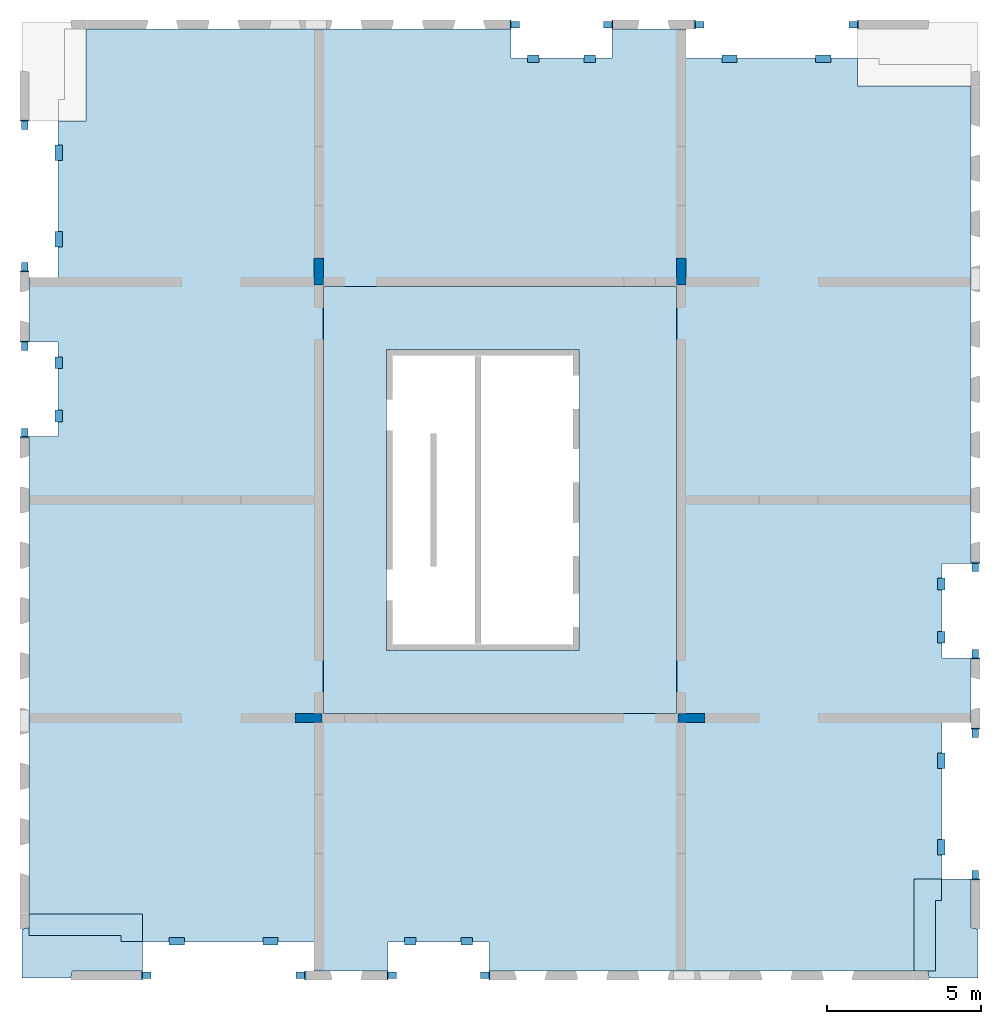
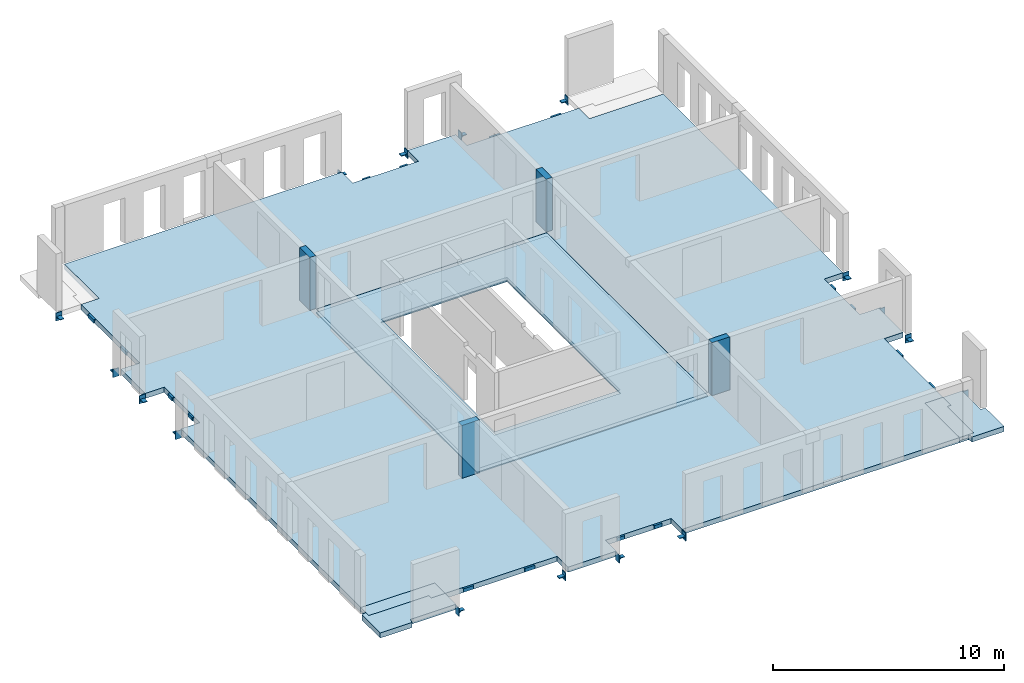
# One storey, part 1 of 5: 32 beams, 7 slabs, 4 columns, 3 openings.
"""IFC2X3 building model written with IfcOpenShell, lengths in millimetres."""

import ifcopenshell
import ifcopenshell.guid

model = None  # the IFC model being written
_history = None  # IfcOwnerHistory: only IFC2X3 demands one
_inside = {}  # id of a spatial element -> (the spatial element, [elements in it])
_under = {}  # id of a project, library or spatial element -> (it, [spatial elements below it])
_declared = {}  # id of a project -> (the project, [libraries it declares])
_typed = {}  # id of a type object -> (the type object, [elements of that type])
_made_of = {}  # id of a material, layer set ... -> (it, [elements and type objects made of it])


def new_model(schema):
    """Start an empty IFC model of exactly this schema.

    Asked for "IFC4X3", IfcOpenShell would pick the latest addendum, in which some entities
    have other attributes; the version numbers below select the first issue.
    IFC2X3 requires an IfcOwnerHistory on every rooted entity: one is made here for all.
    """
    global model, _history
    if schema == "IFC4X3":
        model = ifcopenshell.file(schema_version=(4, 3, 0, 0))
    else:
        model = ifcopenshell.file(schema=schema)
    _inside.clear()
    _under.clear()
    _declared.clear()
    _typed.clear()
    _made_of.clear()
    _history = None
    if model.schema == "IFC2X3":
        org = make("IfcOrganization", Name="unknown")
        user = make(
            "IfcPersonAndOrganization",
            ThePerson=make("IfcPerson", FamilyName="unknown"),
            TheOrganization=org,
        )
        app = make(
            "IfcApplication",
            ApplicationDeveloper=org,
            Version="unknown",
            ApplicationFullName="unknown",
            ApplicationIdentifier="unknown",
        )
        _history = make(
            "IfcOwnerHistory",
            OwningUser=user,
            OwningApplication=app,
            ChangeAction="ADDED",
            CreationDate=0,
        )
    return model


def make(cls, **values):
    """One entity of the class cls with the attributes given. An attribute that is None is left unset."""
    return model.create_entity(
        cls, **{name: value for name, value in values.items() if value is not None}
    )


def entity(cls, *values):
    """Any entity or typed value of the class cls, its attributes in the order of the schema. None: left unset."""
    e = model.create_entity(cls)
    for i, value in enumerate(values):
        if value is not None:
            e[i] = value
    return e


def rooted(cls, **values):
    """An entity with a GlobalId (a new one), such as an element, a storey or a relation."""
    return make(cls, GlobalId=ifcopenshell.guid.new(), OwnerHistory=_history, **values)


def si_unit(unit_type, name, prefix=None):
    """IfcSIUnit, for example si_unit("LENGTHUNIT", "METRE", prefix="MILLI")."""
    return make("IfcSIUnit", UnitType=unit_type, Prefix=prefix, Name=name)


def converted_unit(unit_type, name, factor, base, dimensions=None, offset=None):
    """IfcConversionBasedUnit, such as the inch: factor (a typed value) times the base unit."""
    return make(
        "IfcConversionBasedUnit"
        if offset is None
        else "IfcConversionBasedUnitWithOffset",
        ConversionOffset=offset,
        Dimensions=None
        if dimensions is None
        else entity("IfcDimensionalExponents", *dimensions),
        UnitType=unit_type,
        Name=name,
        ConversionFactor=make(
            "IfcMeasureWithUnit", ValueComponent=factor, UnitComponent=base
        ),
    )


def derived_unit(unit_type, elements):
    """IfcDerivedUnit: a product of units, each with its exponent."""
    return make(
        "IfcDerivedUnit",
        Elements=[
            make("IfcDerivedUnitElement", Unit=unit, Exponent=power)
            for unit, power in elements
        ],
        UnitType=unit_type,
    )


def assignment(units):
    """IfcUnitAssignment: the units of a project."""
    return None if units is None else make("IfcUnitAssignment", Units=units)


def point(xyz):
    """IfcCartesianPoint."""
    return None if xyz is None else make("IfcCartesianPoint", Coordinates=xyz)


def direction(xyz):
    """IfcDirection."""
    return None if xyz is None else make("IfcDirection", DirectionRatios=xyz)


def frame(location, z_axis=None, x_axis=None):
    """IfcAxis2Placement3D, a coordinate frame: its origin and axes. An axis left out is left unset."""
    return make(
        "IfcAxis2Placement3D",
        Location=point(location),
        Axis=direction(z_axis),
        RefDirection=direction(x_axis),
    )


def frame_2d(location, x_axis=None):
    """IfcAxis2Placement2D, a coordinate frame in the plane: its origin and x axis."""
    return make(
        "IfcAxis2Placement2D", Location=point(location), RefDirection=direction(x_axis)
    )


def origin():
    """The frame at (0, 0, 0) with its axes left unset."""
    return frame((0.0, 0.0, 0.0))


def origin_2d_with_axis():
    """The frame at (0, 0) in the plane with the x axis (1, 0) written out."""
    return frame_2d((0.0, 0.0), x_axis=(1.0, 0.0))


def place(relative_to, where):
    """IfcLocalPlacement: puts the frame where relative to a parent placement (None: the world)."""
    return make(
        "IfcLocalPlacement", PlacementRelTo=relative_to, RelativePlacement=where
    )


def context(
    kind, dimensions, precision=None, world=None, true_north=None, identifier=None
):
    """IfcGeometricRepresentationContext, for example the 3D "Model" context."""
    return make(
        "IfcGeometricRepresentationContext",
        ContextIdentifier=identifier,
        ContextType=kind,
        CoordinateSpaceDimension=dimensions,
        Precision=precision,
        WorldCoordinateSystem=world,
        TrueNorth=true_north,
    )


def subcontext(parent, identifier, kind, view, scale=None):
    """IfcGeometricRepresentationSubContext, for example "Body" below "Model"."""
    return make(
        "IfcGeometricRepresentationSubContext",
        ContextIdentifier=identifier,
        ContextType=kind,
        ParentContext=parent,
        TargetScale=scale,
        TargetView=view,
    )


def project(units=None, contexts=None):
    """IfcProject with its units and contexts."""
    return rooted(
        "IfcProject",
        Name="project",
        RepresentationContexts=contexts,
        UnitsInContext=assignment(units),
    )


def spatial(cls, under=None, at=None, **own):
    """A site, building, storey or space (cls), placed at a placement, below another one or the project."""
    s = rooted(cls, ObjectPlacement=at, **own)
    if under is not None:
        _under.setdefault(under.id(), (under, []))[1].append(s)
    return s


def polyline(points):
    """IfcPolyline through the points."""
    return make("IfcPolyline", Points=[point(p) for p in points])


def profile(cls, at=None, kind="AREA", **sizes):
    """A parametric profile (cls). Its sizes go by their IFC names, for example OverallWidth=200.0."""
    return make(cls, ProfileType=kind, Position=at, **sizes)


def rectangle(**sizes):
    """IfcRectangleProfileDef."""
    return profile("IfcRectangleProfileDef", **sizes)


def outline(outer, holes=None, kind="AREA"):
    """IfcArbitraryClosedProfileDef: a profile drawn as a closed curve; with holes, ...WithVoids."""
    if holes is None:
        return make("IfcArbitraryClosedProfileDef", ProfileType=kind, OuterCurve=outer)
    return make(
        "IfcArbitraryProfileDefWithVoids",
        ProfileType=kind,
        OuterCurve=outer,
        InnerCurves=holes,
    )


def extrude(swept, where, along, depth):
    """IfcExtrudedAreaSolid: the profile swept, set in the frame where, extruded along a direction by depth."""
    return make(
        "IfcExtrudedAreaSolid",
        SweptArea=swept,
        Position=where,
        ExtrudedDirection=direction(along),
        Depth=depth,
    )


def shape(context_of_items, identifier, shape_type, items):
    """IfcShapeRepresentation: the items that make up one representation, for example the "Body"."""
    return make(
        "IfcShapeRepresentation",
        ContextOfItems=context_of_items,
        RepresentationIdentifier=identifier,
        RepresentationType=shape_type,
        Items=items,
    )


def source(mapping_origin, context_of_items, identifier, shape_type, items):
    """IfcRepresentationMap: a shape defined once, which mapped items show again and again."""
    return make(
        "IfcRepresentationMap",
        MappingOrigin=mapping_origin,
        MappedRepresentation=shape(context_of_items, identifier, shape_type, items),
    )


def transform(
    local_origin,
    x_axis=None,
    y_axis=None,
    z_axis=None,
    scale=None,
    scale2=None,
    scale3=None,
    uniform=True,
):
    """IfcCartesianTransformationOperator3D, or its non-uniform kind. x_axis, y_axis, z_axis: its Axis1, 2, 3."""
    if uniform:
        return make(
            "IfcCartesianTransformationOperator3D",
            Axis1=direction(x_axis),
            Axis2=direction(y_axis),
            LocalOrigin=point(local_origin),
            Scale=scale,
            Axis3=direction(z_axis),
        )
    return make(
        "IfcCartesianTransformationOperator3DnonUniform",
        Axis1=direction(x_axis),
        Axis2=direction(y_axis),
        LocalOrigin=point(local_origin),
        Scale=scale,
        Axis3=direction(z_axis),
        Scale2=scale2,
        Scale3=scale3,
    )


def mapped(mapping_source, mapping_target):
    """IfcMappedItem: shows the shape of a source again, moved by a transform."""
    return make(
        "IfcMappedItem", MappingSource=mapping_source, MappingTarget=mapping_target
    )


def material(Name=None, Category=None):
    """IfcMaterial."""
    return make("IfcMaterial", Name=Name, Category=Category)


def layer(
    of_material, thickness, ventilated=None, Name=None, Category=None, Priority=None
):
    """IfcMaterialLayer: one layer of a wall or slab, of a material (None: an air gap)."""
    return make(
        "IfcMaterialLayer",
        Material=of_material,
        LayerThickness=thickness,
        IsVentilated=ventilated,
        Name=Name,
        Category=Category,
        Priority=Priority,
    )


def layer_set(layers, Name=None):
    """IfcMaterialLayerSet."""
    return make("IfcMaterialLayerSet", MaterialLayers=layers, LayerSetName=Name)


def layer_usage(for_layer_set, set_direction, sense, offset, extent=None):
    """IfcMaterialLayerSetUsage: how a layer set lies in its element."""
    return make(
        "IfcMaterialLayerSetUsage",
        ForLayerSet=for_layer_set,
        LayerSetDirection=set_direction,
        DirectionSense=sense,
        OffsetFromReferenceLine=offset,
        ReferenceExtent=extent,
    )


def made_of(thing, what):
    """Note that an element or type object is made of a material, layer set ...; save() writes the relation."""
    if what is not None:
        _made_of.setdefault(what.id(), (what, []))[1].append(thing)
    return thing


def type_object(cls, material=None, **own):
    """A type object (cls), such as IfcWallType, which elements share."""
    return made_of(rooted(cls, **own), material)


def type_shapes(of_type, sources):
    """Give a type object the sources (RepresentationMaps) that its elements show as mapped items."""
    of_type.RepresentationMaps = sources


def element(
    cls,
    number,
    at=None,
    inside=None,
    cuts=None,
    type_object=None,
    material=None,
    context=None,
    identifier="Body",
    shape_type=None,
    held_by="IfcProductDefinitionShape",
    body=None,
    shapes=None,
    **own,
):
    """One element of the class cls, such as IfcWall. Its Tag is "e" and its number.

    at: its placement. inside: the storey or other place that contains it. cuts: it is an
    opening in that element (IfcRelVoidsElement). A single representation is given by context,
    identifier, shape_type and body (its items); several are given by shapes. held_by: the class
    of the entity that holds the representations. save() writes the other relations.
    """
    e = rooted(cls, Tag="e%d" % number, ObjectPlacement=at, **own)
    if body is not None:
        shapes = [shape(context, identifier, shape_type, body)]
    if shapes is not None:
        e.Representation = make(held_by, Representations=shapes)
    if inside is not None:
        _inside.setdefault(inside.id(), (inside, []))[1].append(e)
    if cuts is not None:
        rooted(
            "IfcRelVoidsElement", RelatingBuildingElement=cuts, RelatedOpeningElement=e
        )
    if type_object is not None:
        _typed.setdefault(type_object.id(), (type_object, []))[1].append(e)
    return made_of(e, material)


def aggregate(whole, parts):
    """IfcRelAggregates: a whole, such as a stair, and the parts it consists of."""
    return rooted("IfcRelAggregates", RelatingObject=whole, RelatedObjects=parts)


def save(model, path):
    """Write the relations noted so far, then the file.

    IfcRelAggregates (storeys below a building ...), IfcRelContainedInSpatialStructure (elements
    in a storey), IfcRelDefinesByType, IfcRelAssociatesMaterial and IfcRelDeclares: one each for
    every whole, place, type object, material and project.
    """
    for whole, parts in _under.values():
        aggregate(whole, parts)
    for where, things in _inside.values():
        rooted(
            "IfcRelContainedInSpatialStructure",
            RelatedElements=things,
            RelatingStructure=where,
        )
    for kind, things in _typed.values():
        rooted("IfcRelDefinesByType", RelatedObjects=things, RelatingType=kind)
    for what, things in _made_of.values():
        rooted("IfcRelAssociatesMaterial", RelatedObjects=things, RelatingMaterial=what)
    for by, libraries in _declared.values():
        rooted("IfcRelDeclares", RelatingContext=by, RelatedDefinitions=libraries)
    model.write(path)


model = new_model("IFC2X3")

# Units and contexts
model_context = context("Model", 3, precision=0.01, world=origin(), true_north=direction((6.12303176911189e-17, 1.0)))
body_context = subcontext(model_context, "Body", "Model", "MODEL_VIEW")
ifc_project = project(units=[si_unit("LENGTHUNIT", "METRE", prefix="MILLI"), si_unit("AREAUNIT", "SQUARE_METRE"), si_unit("VOLUMEUNIT", "CUBIC_METRE"), converted_unit("PLANEANGLEUNIT", "DEGREE", entity("IfcRatioMeasure", 0.0174532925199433), si_unit("PLANEANGLEUNIT", "RADIAN"), dimensions=[0, 0, 0, 0, 0, 0, 0]), si_unit("MASSUNIT", "GRAM", prefix="KILO"), derived_unit("MASSDENSITYUNIT", [(si_unit("MASSUNIT", "GRAM", prefix="KILO"), 1), (si_unit("LENGTHUNIT", "METRE"), -3)]), si_unit("TIMEUNIT", "SECOND"), si_unit("FREQUENCYUNIT", "HERTZ"), si_unit("THERMODYNAMICTEMPERATUREUNIT", "DEGREE_CELSIUS"), derived_unit("THERMALTRANSMITTANCEUNIT", [(si_unit("MASSUNIT", "GRAM", prefix="KILO"), 1), (si_unit("THERMODYNAMICTEMPERATUREUNIT", "KELVIN"), -1), (si_unit("TIMEUNIT", "SECOND"), -3)]), derived_unit("VOLUMETRICFLOWRATEUNIT", [(si_unit("LENGTHUNIT", "METRE"), 3), (si_unit("TIMEUNIT", "SECOND"), -1)]), si_unit("ELECTRICCURRENTUNIT", "AMPERE"), si_unit("ELECTRICVOLTAGEUNIT", "VOLT"), si_unit("POWERUNIT", "WATT"), si_unit("FORCEUNIT", "NEWTON", prefix="KILO"), si_unit("ILLUMINANCEUNIT", "LUX"), si_unit("LUMINOUSFLUXUNIT", "LUMEN"), si_unit("LUMINOUSINTENSITYUNIT", "CANDELA"), derived_unit("USERDEFINED", [(si_unit("MASSUNIT", "GRAM", prefix="KILO"), -1), (si_unit("LENGTHUNIT", "METRE"), -2), (si_unit("TIMEUNIT", "SECOND"), 3), (si_unit("LUMINOUSFLUXUNIT", "LUMEN"), 1)]), derived_unit("LINEARVELOCITYUNIT", [(si_unit("LENGTHUNIT", "METRE"), 1), (si_unit("TIMEUNIT", "SECOND"), -1)]), si_unit("PRESSUREUNIT", "PASCAL"), derived_unit("USERDEFINED", [(si_unit("LENGTHUNIT", "METRE"), -2), (si_unit("MASSUNIT", "GRAM", prefix="KILO"), 1), (si_unit("TIMEUNIT", "SECOND"), -2)])], contexts=[model_context])

# Site, building, storey
site_placement = place(None, origin())
site = spatial("IfcSite", under=ifc_project, at=site_placement, Name="Default", CompositionType="ELEMENT")
building_placement = place(site_placement, origin())
building = spatial("IfcBuilding", under=site, at=building_placement, Name="niet gebruiken", CompositionType="ELEMENT")
storey_placement = place(building_placement, frame((0.0, 0.0, 143460.0)))
storey = spatial("IfcBuildingStorey", under=building, at=storey_placement, Name="46 zesenveertigste verdieping", CompositionType="ELEMENT", Elevation=143460.0)

# Columns
ifc_material_1 = material(Name="NLRS_f2_beton ihwg")
column_type_1 = type_object("IfcColumnType", Name="300x880", PredefinedType="COLUMN", material=ifc_material_1)
shared_shape_1 = source(origin(), body_context, "Body", "SweptSolid", [
    extrude(rectangle(XDim=879.999999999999, YDim=300.000000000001, at=origin_2d_with_axis()), frame((135850.0, 24940.0, 143370.0), z_axis=(0.0, 0.0, 1.0), x_axis=(0.0, -1.0, 0.0)), (0.0, 0.0, 1.0), 2789.99999999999),
])
type_shapes(column_type_1, [shared_shape_1])
column_1_placement = place(storey_placement, frame((0.0, 0.0, -143460.0)))
element("IfcColumn", 1, at=column_1_placement, inside=storey, type_object=column_type_1, material=ifc_material_1, Name="NLRS_28.11_SCO_TLB_beton kolom ihwg_gen:300x880", ObjectType="300x880", context=body_context, shape_type="MappedRepresentation", body=[
    mapped(shared_shape_1, transform((0.0, 0.0, 0.0), scale=1.0)),
])
column_type_2 = type_object("IfcColumnType", Name="300x880", PredefinedType="COLUMN", material=ifc_material_1)
shared_shape_2 = source(origin(), body_context, "Body", "SweptSolid", [
    extrude(rectangle(XDim=879.999999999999, YDim=300.000000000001, at=origin_2d_with_axis()), frame((147650.0, 24940.0, 143370.0), z_axis=(0.0, 0.0, 1.0), x_axis=(0.0, -1.0, 0.0)), (0.0, 0.0, 1.0), 2789.99999999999),
])
type_shapes(column_type_2, [shared_shape_2])
column_2_placement = place(storey_placement, frame((0.0, 0.0, -143460.0)))
element("IfcColumn", 2, at=column_2_placement, inside=storey, type_object=column_type_2, material=ifc_material_1, Name="NLRS_28.11_SCO_TLB_beton kolom ihwg_gen:300x880", ObjectType="300x880", context=body_context, shape_type="MappedRepresentation", body=[
    mapped(shared_shape_2, transform((0.0, 0.0, 0.0), scale=1.0)),
])
column_type_3 = type_object("IfcColumnType", Name="300x880", PredefinedType="COLUMN", material=ifc_material_1)
shared_shape_3 = source(origin(), body_context, "Body", "SweptSolid", [
    extrude(rectangle(XDim=300.000000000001, YDim=880.000000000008, at=origin_2d_with_axis()), frame((135510.003540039, 10400.0, 143370.0), z_axis=(0.0, 0.0, 1.0), x_axis=(0.0, -1.0, 0.0)), (0.0, 0.0, 1.0), 2789.99999999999),
])
type_shapes(column_type_3, [shared_shape_3])
column_3_placement = place(storey_placement, frame((0.0, 0.0, -143460.0)))
element("IfcColumn", 3, at=column_3_placement, inside=storey, type_object=column_type_3, material=ifc_material_1, Name="NLRS_28.11_SCO_TLB_beton kolom ihwg_gen:300x880", ObjectType="300x880", context=body_context, shape_type="MappedRepresentation", body=[
    mapped(shared_shape_3, transform((0.0, 0.0, 0.0), scale=1.0)),
])
column_type_4 = type_object("IfcColumnType", Name="300x880", PredefinedType="COLUMN", material=ifc_material_1)
shared_shape_4 = source(origin(), body_context, "Body", "SweptSolid", [
    extrude(rectangle(XDim=300.000000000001, YDim=880.000000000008, at=origin_2d_with_axis()), frame((147990.0, 10400.0, 143370.0), z_axis=(0.0, 0.0, 1.0), x_axis=(0.0, -1.0, 0.0)), (0.0, 0.0, 1.0), 2789.99999999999),
])
type_shapes(column_type_4, [shared_shape_4])
column_4_placement = place(storey_placement, frame((0.0, 0.0, -143460.0)))
element("IfcColumn", 4, at=column_4_placement, inside=storey, type_object=column_type_4, material=ifc_material_1, Name="NLRS_28.11_SCO_TLB_beton kolom ihwg_gen:300x880", ObjectType="300x880", context=body_context, shape_type="MappedRepresentation", body=[
    mapped(shared_shape_4, transform((0.0, 0.0, 0.0), scale=1.0)),
])

# Beams
ifc_material_2 = material(Name="NLRS_h2_staal")
beam_type_1 = type_object("IfcBeamType", Name="NLRS_28.11_SF_WPB_stalen schoen 4_gen", PredefinedType="BEAM", material=ifc_material_2)
shared_shape_5 = source(origin(), body_context, "Body", "SweptSolid", [
    extrude(outline(polyline([(-69.4999999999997, -23.0), (8.49999999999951, -23.0), (30.5, -1.0), (30.5000000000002, 47.0), (-69.4999999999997, -23.0)])), frame((-105.0, -109.499999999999, -58.0), z_axis=(1.0, 0.0, 0.0), x_axis=(0.0, -1.0, 0.0)), (0.0, 0.0, 1.0), 35.0),
    extrude(outline(polyline([(-69.4999999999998, -23.0), (8.49999999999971, -23.0), (30.5, -1.0), (30.5000000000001, 47.0), (-69.4999999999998, -23.0)])), frame((70.0, -109.499999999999, -58.0), z_axis=(1.0, 0.0, 0.0), x_axis=(0.0, -1.0, 0.0)), (0.0, 0.0, 1.0), 35.0),
    extrude(rectangle(XDim=300.0, YDim=34.9999999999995, at=origin_2d_with_axis()), frame((0.0, -157.5, -230.0), z_axis=(0.0, 0.0, 1.0), x_axis=(-1.0, 0.0, 0.0)), (0.0, 0.0, 1.0), 420.0),
    extrude(rectangle(XDim=210.000000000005, YDim=274.999999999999, at=origin_2d_with_axis()), frame((0.0, -2.4999999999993, -35.0), z_axis=(0.0, 0.0, 1.0), x_axis=(-1.0, 0.0, 0.0)), (0.0, 0.0, 1.0), 35.0),
])
type_shapes(beam_type_1, [shared_shape_5])
beam_1_placement = place(storey_placement, frame((157230.0, 12500.0, -310.0)))
element("IfcBeam", 5, at=beam_1_placement, inside=storey, type_object=beam_type_1, material=ifc_material_2, Name="NLRS_28.11_SF_WPB_stalen schoen 4_gen:NLRS_28.11_SF_WPB_stalen schoen 4_gen", ObjectType="NLRS_28.11_SF_WPB_stalen schoen 4_gen", context=body_context, shape_type="MappedRepresentation", body=[
    mapped(shared_shape_5, transform((0.0, 0.0, 0.0), scale=1.0)),
])
for number, where, z_axis, x_axis, name in (
    (6, (157230.0, 15300.0, -310.0), (0.0, 0.0, 1.0), (-1.0, 0.0, 0.0), "NLRS_28.11_SF_WPB_stalen schoen 4_gen:NLRS_28.11_SF_WPB_stalen schoen 4_gen"),
    (7, (126270.0, 22500.0, -310.0), (0.0, 0.0, 1.0), (-1.0, 0.0, 0.0), "NLRS_28.11_SF_WPB_stalen schoen 4_gen:NLRS_28.11_SF_WPB_stalen schoen 4_gen"),
):
    element("IfcBeam", number, at=place(storey_placement, frame(where, z_axis=z_axis, x_axis=x_axis)), inside=storey, type_object=beam_type_1, material=ifc_material_2, Name=name, ObjectType="NLRS_28.11_SF_WPB_stalen schoen 4_gen", context=body_context, shape_type="MappedRepresentation", body=[
        mapped(shared_shape_5, transform((0.0, 0.0, 0.0), scale=1.0)),
    ])
beam_2_placement = place(storey_placement, frame((126270.0, 19700.0, -310.0)))
element("IfcBeam", 8, at=beam_2_placement, inside=storey, type_object=beam_type_1, material=ifc_material_2, Name="NLRS_28.11_SF_WPB_stalen schoen 4_gen:NLRS_28.11_SF_WPB_stalen schoen 4_gen", ObjectType="NLRS_28.11_SF_WPB_stalen schoen 4_gen", context=body_context, shape_type="MappedRepresentation", body=[
    mapped(shared_shape_5, transform((0.0, 0.0, 0.0), scale=1.0)),
])
for number, where, z_axis, x_axis, name in (
    (9, (138250.0, 2020.0, -310.0), (0.0, 0.0, 1.0), (0.0, -1.0, 0.0), "NLRS_28.11_SF_WPB_stalen schoen 4_gen:NLRS_28.11_SF_WPB_stalen schoen 4_gen"),
    (10, (141250.0, 2020.0, -310.0), (0.0, 0.0, 1.0), (0.0, 1.0, 0.0), "NLRS_28.11_SF_WPB_stalen schoen 4_gen:NLRS_28.11_SF_WPB_stalen schoen 4_gen"),
    (11, (145250.0, 32980.0, -310.0), (0.0, 0.0, 1.0), (0.0, 1.0, 0.0), "NLRS_28.11_SF_WPB_stalen schoen 4_gen:NLRS_28.11_SF_WPB_stalen schoen 4_gen"),
    (12, (142250.0, 32980.0, -310.0), (0.0, 0.0, 1.0), (0.0, -1.0, 0.0), "NLRS_28.11_SF_WPB_stalen schoen 4_gen:NLRS_28.11_SF_WPB_stalen schoen 4_gen"),
):
    element("IfcBeam", number, at=place(storey_placement, frame(where, z_axis=z_axis, x_axis=x_axis)), inside=storey, type_object=beam_type_1, material=ifc_material_2, Name=name, ObjectType="NLRS_28.11_SF_WPB_stalen schoen 4_gen", context=body_context, shape_type="MappedRepresentation", body=[
        mapped(shared_shape_5, transform((0.0, 0.0, 0.0), scale=1.0)),
    ])
beam_type_2 = type_object("IfcBeamType", Name="NLRS_28.11_SF_WPB_stalen schoen 3_gen", PredefinedType="BEAM", material=ifc_material_2)
shared_shape_6 = source(origin(), body_context, "Body", "SweptSolid", [
    extrude(outline(polyline([(-69.4999999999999, -23.0), (8.49999999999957, -23.0), (30.5000000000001, -1.0), (30.5000000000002, 47.0), (-69.4999999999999, -23.0)])), frame((-105.0, -109.499999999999, -63.0), z_axis=(1.0, 0.0, 0.0), x_axis=(0.0, -1.0, 0.0)), (0.0, 0.0, 1.0), 40.0),
    extrude(outline(polyline([(-69.4999999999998, -23.0), (8.49999999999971, -23.0), (30.5, -1.0), (30.5000000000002, 47.0), (-69.4999999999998, -23.0)])), frame((65.0, -109.499999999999, -63.0), z_axis=(1.0, 0.0, 0.0), x_axis=(0.0, -1.0, 0.0)), (0.0, 0.0, 1.0), 40.0),
    extrude(rectangle(XDim=300.0, YDim=39.9999999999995, at=origin_2d_with_axis()), frame((0.0, -160.0, -230.0), z_axis=(0.0, 0.0, 1.0), x_axis=(-1.0, 0.0, 0.0)), (0.0, 0.0, 1.0), 420.0),
    extrude(rectangle(XDim=210.000000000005, YDim=274.999999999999, at=origin_2d_with_axis()), frame((0.0, -2.49999999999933, -40.0), z_axis=(0.0, 0.0, 1.0), x_axis=(-1.0, 0.0, 0.0)), (0.0, 0.0, 1.0), 39.9999999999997),
])
type_shapes(beam_type_2, [shared_shape_6])
beam_3_placement = place(storey_placement, frame((157230.0, 9900.0, -310.0), z_axis=(0.0, 0.0, 1.0), x_axis=(-1.0, 0.0, 0.0)))
element("IfcBeam", 13, at=beam_3_placement, inside=storey, type_object=beam_type_2, material=ifc_material_2, Name="NLRS_28.11_SF_WPB_stalen schoen 3_gen:NLRS_28.11_SF_WPB_stalen schoen 3_gen", ObjectType="NLRS_28.11_SF_WPB_stalen schoen 3_gen", context=body_context, shape_type="MappedRepresentation", body=[
    mapped(shared_shape_6, transform((0.0, 0.0, 0.0), scale=1.0)),
])
for number, where, name in (
    (14, (157230.0, 5300.0, -310.0), "NLRS_28.11_SF_WPB_stalen schoen 3_gen:NLRS_28.11_SF_WPB_stalen schoen 3_gen"),
    (15, (126270.0, 25100.0, -310.0), "NLRS_28.11_SF_WPB_stalen schoen 3_gen:NLRS_28.11_SF_WPB_stalen schoen 3_gen"),
):
    element("IfcBeam", number, at=place(storey_placement, frame(where)), inside=storey, type_object=beam_type_2, material=ifc_material_2, Name=name, ObjectType="NLRS_28.11_SF_WPB_stalen schoen 3_gen", context=body_context, shape_type="MappedRepresentation", body=[
        mapped(shared_shape_6, transform((0.0, 0.0, 0.0), scale=1.0)),
    ])
for number, where, z_axis, x_axis, name in (
    (16, (126270.0, 29700.0, -310.0), (0.0, 0.0, 1.0), (-1.0, 0.0, 0.0), "NLRS_28.11_SF_WPB_stalen schoen 3_gen:NLRS_28.11_SF_WPB_stalen schoen 3_gen"),
    (17, (135250.0, 2020.0, -310.0), (0.0, 0.0, 1.0), (0.0, 1.0, 0.0), "NLRS_28.11_SF_WPB_stalen schoen 3_gen:NLRS_28.11_SF_WPB_stalen schoen 3_gen"),
    (18, (130250.0, 2020.0, -310.0), (0.0, 0.0, 1.0), (0.0, -1.0, 0.0), "NLRS_28.11_SF_WPB_stalen schoen 3_gen:NLRS_28.11_SF_WPB_stalen schoen 3_gen"),
    (19, (148250.0, 32980.0, -310.0), (0.0, 0.0, 1.0), (0.0, -1.0, 0.0), "NLRS_28.11_SF_WPB_stalen schoen 3_gen:NLRS_28.11_SF_WPB_stalen schoen 3_gen"),
    (20, (153250.0, 32980.0, -310.0), (0.0, 0.0, 1.0), (0.0, 1.0, 0.0), "NLRS_28.11_SF_WPB_stalen schoen 3_gen:NLRS_28.11_SF_WPB_stalen schoen 3_gen"),
):
    element("IfcBeam", number, at=place(storey_placement, frame(where, z_axis=z_axis, x_axis=x_axis)), inside=storey, type_object=beam_type_2, material=ifc_material_2, Name=name, ObjectType="NLRS_28.11_SF_WPB_stalen schoen 3_gen", context=body_context, shape_type="MappedRepresentation", body=[
        mapped(shared_shape_6, transform((0.0, 0.0, 0.0), scale=1.0)),
    ])
beam_type_3 = type_object("IfcBeamType", Name="NLRS_28.11_SF_WPB_stalen handje 7 lang 375_gen:NLRS_28.11_SF_WPB_stalen handje 7_gen", PredefinedType="BEAM")
beam_4_placement = place(storey_placement, frame((156235.125015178, 9255.24886461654, -93.0), z_axis=(0.0, 0.0, 1.0), x_axis=(0.0, -1.0, 0.0)))
element("IfcBeam", 21, at=beam_4_placement, inside=storey, type_object=beam_type_3, material=ifc_material_2, Name="NLRS_28.11_SF_WPB_stalen handje 7 lang 375_gen:NLRS_28.11_SF_WPB_stalen handje 7_gen", ObjectType="NLRS_28.11_SF_WPB_stalen handje 7 lang 375_gen:NLRS_28.11_SF_WPB_stalen handje 7_gen", context=body_context, shape_type="SweptSolid", body=[
    extrude(outline(polyline([(-70.6666666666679, -153.333333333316), (-40.6666666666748, -153.333333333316), (-40.6666666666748, 61.66666666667), (111.333333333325, 61.66666666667), (111.333333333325, 91.6666666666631), (-70.6666666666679, 91.6666666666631), (-70.6666666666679, -153.333333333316)])), frame((0.0, -91.6666666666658, -70.6666666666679), z_axis=(1.0, 0.0, 0.0), x_axis=(0.0, 0.0, -1.0)), (0.0, 0.0, 1.0), 500.000000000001),
])
beam_5_placement = place(storey_placement, frame((156235.125015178, 6445.2458243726, -93.0), z_axis=(0.0, 0.0, 1.0), x_axis=(0.0, -1.0, 0.0)))
element("IfcBeam", 22, at=beam_5_placement, inside=storey, type_object=beam_type_3, material=ifc_material_2, Name="NLRS_28.11_SF_WPB_stalen handje 7 lang 375_gen:NLRS_28.11_SF_WPB_stalen handje 7_gen", ObjectType="NLRS_28.11_SF_WPB_stalen handje 7 lang 375_gen:NLRS_28.11_SF_WPB_stalen handje 7_gen", context=body_context, shape_type="SweptSolid", body=[
    extrude(outline(polyline([(-70.6666666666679, -153.333333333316), (-40.6666666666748, -153.333333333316), (-40.6666666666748, 61.66666666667), (111.333333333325, 61.66666666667), (111.333333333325, 91.6666666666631), (-70.6666666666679, 91.6666666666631), (-70.6666666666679, -153.333333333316)])), frame((0.0, -91.6666666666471, -70.6666666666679), z_axis=(1.0, 0.0, 0.0), x_axis=(0.0, 0.0, -1.0)), (0.0, 0.0, 1.0), 500.000000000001),
])
beam_6_placement = place(storey_placement, frame((127264.874984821, 25744.7511353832, -93.0), z_axis=(0.0, 0.0, 1.0), x_axis=(0.0, 1.0, 0.0)))
element("IfcBeam", 23, at=beam_6_placement, inside=storey, type_object=beam_type_3, material=ifc_material_2, Name="NLRS_28.11_SF_WPB_stalen handje 7 lang 375_gen:NLRS_28.11_SF_WPB_stalen handje 7_gen", ObjectType="NLRS_28.11_SF_WPB_stalen handje 7 lang 375_gen:NLRS_28.11_SF_WPB_stalen handje 7_gen", context=body_context, shape_type="SweptSolid", body=[
    extrude(outline(polyline([(-70.6666666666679, -153.333333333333), (-40.6666666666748, -153.333333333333), (-40.6666666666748, 61.66666666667), (111.333333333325, 61.6666666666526), (111.333333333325, 91.6666666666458), (-70.6666666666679, 91.6666666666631), (-70.6666666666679, -153.333333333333)])), frame((0.0, -91.6666666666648, -70.6666666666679), z_axis=(1.0, 0.0, 0.0), x_axis=(0.0, 0.0, -1.0)), (0.0, 0.0, 1.0), 500.000000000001),
])
beam_7_placement = place(storey_placement, frame((127264.874984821, 28554.7541756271, -93.0), z_axis=(0.0, 0.0, 1.0), x_axis=(0.0, 1.0, 0.0)))
element("IfcBeam", 24, at=beam_7_placement, inside=storey, type_object=beam_type_3, material=ifc_material_2, Name="NLRS_28.11_SF_WPB_stalen handje 7 lang 375_gen:NLRS_28.11_SF_WPB_stalen handje 7_gen", ObjectType="NLRS_28.11_SF_WPB_stalen handje 7 lang 375_gen:NLRS_28.11_SF_WPB_stalen handje 7_gen", context=body_context, shape_type="SweptSolid", body=[
    extrude(outline(polyline([(-70.6666666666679, -153.333333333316), (-40.6666666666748, -153.333333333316), (-40.6666666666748, 61.6666666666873), (111.333333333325, 61.66666666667), (111.333333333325, 91.6666666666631), (-70.6666666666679, 91.6666666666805), (-70.6666666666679, -153.333333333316)])), frame((0.0, -91.66666666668, -70.6666666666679), z_axis=(1.0, 0.0, 0.0), x_axis=(0.0, 0.0, -1.0)), (0.0, 0.0, 1.0), 500.000000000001),
])
for number, where, z_axis, x_axis, name in (
    (25, (140862.631597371, 3015.23611279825, -93.0), (0.0, 0.0, 1.0), (-1.0, 0.0, 0.0), "NLRS_28.11_SF_WPB_stalen handje 7 lang 375_gen:NLRS_28.11_SF_WPB_stalen handje 7_gen"),
    (26, (139012.628555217, 3015.2361127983, -93.0), (0.0, 0.0, 1.0), (-1.0, 0.0, 0.0), "NLRS_28.11_SF_WPB_stalen handje 7 lang 375_gen:NLRS_28.11_SF_WPB_stalen handje 7_gen"),
):
    element("IfcBeam", number, at=place(storey_placement, frame(where, z_axis=z_axis, x_axis=x_axis)), inside=storey, type_object=beam_type_3, material=ifc_material_2, Name=name, ObjectType="NLRS_28.11_SF_WPB_stalen handje 7 lang 375_gen:NLRS_28.11_SF_WPB_stalen handje 7_gen", context=body_context, shape_type="SweptSolid", body=[
        extrude(outline(polyline([(-70.666666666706, -153.333333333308), (-40.6666666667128, -153.333333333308), (-40.6666666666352, 61.6666666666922), (111.333333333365, 61.6666666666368), (111.333333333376, 91.6666666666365), (-70.6666666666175, 91.6666666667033), (-70.666666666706, -153.333333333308)])), frame((0.0, -91.6666666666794, -70.6666666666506), z_axis=(1.0, 0.0, 0.0), x_axis=(0.0, 0.0, -1.0)), (0.0, 0.0, 1.0), 375.000000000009),
    ])
for number, where, z_axis, x_axis, name in (
    (27, (134525.131597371, 3015.23611279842, -93.0), (0.0, 0.0, 1.0), (-1.0, 0.0, 0.0), "NLRS_28.11_SF_WPB_stalen handje 7 lang 375_gen:NLRS_28.11_SF_WPB_stalen handje 7_gen"),
    (28, (131475.128555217, 3015.23611279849, -93.0), (0.0, 0.0, 1.0), (-1.0, 0.0, 0.0), "NLRS_28.11_SF_WPB_stalen handje 7 lang 375_gen:NLRS_28.11_SF_WPB_stalen handje 7_gen"),
):
    element("IfcBeam", number, at=place(storey_placement, frame(where, z_axis=z_axis, x_axis=x_axis)), inside=storey, type_object=beam_type_3, material=ifc_material_2, Name=name, ObjectType="NLRS_28.11_SF_WPB_stalen handje 7 lang 375_gen:NLRS_28.11_SF_WPB_stalen handje 7_gen", context=body_context, shape_type="SweptSolid", body=[
        extrude(outline(polyline([(-70.6666666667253, -153.333333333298), (-40.6666666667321, -153.333333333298), (-40.6666666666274, 61.6666666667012), (111.333333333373, 61.6666666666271), (111.333333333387, 91.6666666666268), (-70.6666666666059, 91.666666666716), (-70.6666666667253, -153.333333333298)])), frame((0.0, -91.6666666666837, -70.6666666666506), z_axis=(1.0, 0.0, 0.0), x_axis=(0.0, 0.0, -1.0)), (0.0, 0.0, 1.0), 500.000000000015),
    ])
for number, where, name in (
    (29, (142637.368402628, 31984.7638872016, -93.0), "NLRS_28.11_SF_WPB_stalen handje 7 lang 375_gen:NLRS_28.11_SF_WPB_stalen handje 7_gen"),
    (30, (144487.371444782, 31984.7638872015, -93.0), "NLRS_28.11_SF_WPB_stalen handje 7 lang 375_gen:NLRS_28.11_SF_WPB_stalen handje 7_gen"),
):
    element("IfcBeam", number, at=place(storey_placement, frame(where)), inside=storey, type_object=beam_type_3, material=ifc_material_2, Name=name, ObjectType="NLRS_28.11_SF_WPB_stalen handje 7 lang 375_gen:NLRS_28.11_SF_WPB_stalen handje 7_gen", context=body_context, shape_type="SweptSolid", body=[
        extrude(outline(polyline([(-70.6666666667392, -153.333333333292), (-40.666666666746, -153.333333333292), (-40.6666666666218, 61.6666666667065), (111.333333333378, 61.6666666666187), (111.333333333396, 91.6666666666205), (-70.6666666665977, 91.6666666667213), (-70.6666666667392, -153.333333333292)])), frame((0.0, -91.6666666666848, -70.6666666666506), z_axis=(1.0, 0.0, 0.0), x_axis=(0.0, 0.0, -1.0)), (0.0, 0.0, 1.0), 375.000000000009),
    ])
for number, where, name in (
    (31, (148974.868402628, 31984.7638872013, -93.0), "NLRS_28.11_SF_WPB_stalen handje 7 lang 375_gen:NLRS_28.11_SF_WPB_stalen handje 7_gen"),
    (32, (152024.871444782, 31984.7638872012, -93.0), "NLRS_28.11_SF_WPB_stalen handje 7 lang 375_gen:NLRS_28.11_SF_WPB_stalen handje 7_gen"),
):
    element("IfcBeam", number, at=place(storey_placement, frame(where)), inside=storey, type_object=beam_type_3, material=ifc_material_2, Name=name, ObjectType="NLRS_28.11_SF_WPB_stalen handje 7 lang 375_gen:NLRS_28.11_SF_WPB_stalen handje 7_gen", context=body_context, shape_type="SweptSolid", body=[
        extrude(outline(polyline([(-70.6666666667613, -153.333333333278), (-40.6666666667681, -153.333333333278), (-40.6666666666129, 61.6666666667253), (111.333333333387, 61.6666666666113), (111.333333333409, 91.6666666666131), (-70.6666666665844, 91.6666666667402), (-70.6666666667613, -153.333333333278)])), frame((0.0, -91.6666666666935, -70.6666666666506), z_axis=(1.0, 0.0, 0.0), x_axis=(0.0, 0.0, -1.0)), (0.0, 0.0, 1.0), 500.000000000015),
    ])
beam_8_placement = place(storey_placement, frame((156235.0, 14952.5097115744, -93.0), z_axis=(0.0, 0.0, 1.0), x_axis=(0.0, -1.0, 0.0)))
element("IfcBeam", 33, at=beam_8_placement, inside=storey, type_object=beam_type_3, material=ifc_material_2, Name="NLRS_28.11_SF_WPB_stalen handje 7 lang 375_gen:NLRS_28.11_SF_WPB_stalen handje 7_gen", ObjectType="NLRS_28.11_SF_WPB_stalen handje 7 lang 375_gen:NLRS_28.11_SF_WPB_stalen handje 7_gen", context=body_context, shape_type="SweptSolid", body=[
    extrude(outline(polyline([(-70.6666666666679, -153.333333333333), (-40.6666666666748, -153.333333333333), (-40.6666666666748, 61.66666666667), (111.333333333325, 61.66666666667), (111.333333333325, 91.6666666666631), (-70.6666666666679, 91.6666666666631), (-70.6666666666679, -153.333333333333)])), frame((0.0, -91.6666666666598, -70.6666666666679), z_axis=(1.0, 0.0, 0.0), x_axis=(0.0, 0.0, -1.0)), (0.0, 0.0, 1.0), 375.000000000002),
])
beam_9_placement = place(storey_placement, frame((156235.0, 13222.5097115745, -93.0), z_axis=(0.0, 0.0, 1.0), x_axis=(0.0, -1.0, 0.0)))
element("IfcBeam", 34, at=beam_9_placement, inside=storey, type_object=beam_type_3, material=ifc_material_2, Name="NLRS_28.11_SF_WPB_stalen handje 7 lang 375_gen:NLRS_28.11_SF_WPB_stalen handje 7_gen", ObjectType="NLRS_28.11_SF_WPB_stalen handje 7 lang 375_gen:NLRS_28.11_SF_WPB_stalen handje 7_gen", context=body_context, shape_type="SweptSolid", body=[
    extrude(outline(polyline([(-70.6666666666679, -153.333333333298), (-40.6666666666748, -153.333333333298), (-40.6666666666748, 61.6666666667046), (111.333333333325, 61.6666666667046), (111.333333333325, 91.6666666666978), (-70.6666666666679, 91.6666666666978), (-70.6666666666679, -153.333333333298)])), frame((0.0, -91.6666666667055, -70.6666666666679), z_axis=(1.0, 0.0, 0.0), x_axis=(0.0, 0.0, -1.0)), (0.0, 0.0, 1.0), 375.000000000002),
])
beam_10_placement = place(storey_placement, frame((127265.0, 20047.4902884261, -93.0), z_axis=(0.0, 0.0, 1.0), x_axis=(0.0, 1.0, 0.0)))
element("IfcBeam", 35, at=beam_10_placement, inside=storey, type_object=beam_type_3, material=ifc_material_2, Name="NLRS_28.11_SF_WPB_stalen handje 7 lang 375_gen:NLRS_28.11_SF_WPB_stalen handje 7_gen", ObjectType="NLRS_28.11_SF_WPB_stalen handje 7 lang 375_gen:NLRS_28.11_SF_WPB_stalen handje 7_gen", context=body_context, shape_type="SweptSolid", body=[
    extrude(outline(polyline([(-70.6666666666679, -153.333333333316), (-40.6666666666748, -153.333333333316), (-40.6666666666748, 61.6666666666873), (111.333333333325, 61.66666666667), (111.333333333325, 91.6666666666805), (-70.6666666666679, 91.6666666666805), (-70.6666666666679, -153.333333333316)])), frame((0.0, -91.6666666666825, -70.6666666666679), z_axis=(1.0, 0.0, 0.0), x_axis=(0.0, 0.0, -1.0)), (0.0, 0.0, 1.0), 375.000000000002),
])
beam_11_placement = place(storey_placement, frame((127265.0, 21777.4902884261, -93.0), z_axis=(0.0, 0.0, 1.0), x_axis=(0.0, 1.0, 0.0)))
element("IfcBeam", 36, at=beam_11_placement, inside=storey, type_object=beam_type_3, material=ifc_material_2, Name="NLRS_28.11_SF_WPB_stalen handje 7 lang 375_gen:NLRS_28.11_SF_WPB_stalen handje 7_gen", ObjectType="NLRS_28.11_SF_WPB_stalen handje 7 lang 375_gen:NLRS_28.11_SF_WPB_stalen handje 7_gen", context=body_context, shape_type="SweptSolid", body=[
    extrude(outline(polyline([(-70.6666666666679, -153.33333333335), (-40.6666666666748, -153.33333333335), (-40.6666666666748, 61.6666666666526), (111.333333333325, 61.6666666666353), (111.333333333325, 91.6666666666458), (-70.6666666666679, 91.6666666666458), (-70.6666666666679, -153.33333333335)])), frame((0.0, -91.6666666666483, -70.6666666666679), z_axis=(1.0, 0.0, 0.0), x_axis=(0.0, 0.0, -1.0)), (0.0, 0.0, 1.0), 375.000000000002),
])

# Slabs
ifc_material_3 = material(Name="NLRS_f2_beton prefab")
ifc_layer_1 = layer(ifc_material_3, 270.0)
ifc_layer_set_1 = layer_set([ifc_layer_1], Name="Floor:NLRS_23.22_FL_beton prefab d=270 3D element_gen")
ifc_layer_usage_1 = layer_usage(ifc_layer_set_1, "AXIS3", "POSITIVE", 0.0)
slab_1_placement = place(storey_placement, origin())
element("IfcSlab", 37, at=slab_1_placement, inside=storey, material=ifc_layer_usage_1, Name="Floor:NLRS_23.22_FL_beton prefab d=270 3D element_gen", ObjectType="Floor:NLRS_23.22_FL_beton prefab d=270 3D element_gen", PredefinedType="LANDING", context=body_context, shape_type="SweptSolid", body=[
    extrude(outline(polyline([(-1034.47139498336, -1100.52860501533), (1955.52860501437, -1100.52860501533), (1955.52860501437, 749.471394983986), (370.152429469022, 749.471394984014), (322.675940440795, 982.471394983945), (-1267.47139498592, 982.471394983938), (-1267.47139498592, -607.675940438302), (-1034.47139498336, -655.152429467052), (-1034.47139498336, -1100.52860501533)])), frame((156330.528605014, 3204.47139498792, -90.0), z_axis=(0.0, 0.0, -1.0), x_axis=(0.0, 1.0, 0.0)), (0.0, 0.0, 1.0), 270.000000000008),
])
ifc_layer_2 = layer(ifc_material_1, 170.0)
ifc_layer_set_2 = layer_set([ifc_layer_2], Name="Floor:NLRS_23.21_FL_beton ihwg d=170_gen")
ifc_layer_usage_2 = layer_usage(ifc_layer_set_2, "AXIS3", "POSITIVE", 0.0)
slab_2_placement = place(storey_placement, origin())
element("IfcSlab", 38, at=slab_2_placement, inside=storey, material=ifc_layer_usage_2, Name="Floor:NLRS_23.21_FL_beton ihwg d=170_gen", ObjectType="Floor:NLRS_23.21_FL_beton ihwg d=170_gen", PredefinedType="FLOOR", context=body_context, shape_type="SweptSolid", body=[
    extrude(outline(polyline([(-1760.0, -533.33333333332), (1230.0, -533.33333333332), (1230.0, 366.666666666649), (530.0, 366.666666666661), (530.0, 166.666666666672), (-1760.0, 166.666666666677), (-1760.0, -533.33333333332)])), frame((155763.333333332, 3930.0, -90.0), z_axis=(0.0, 0.0, -1.0), x_axis=(0.0, 1.0, 0.0)), (0.0, 0.0, 1.0), 169.999999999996),
])
ifc_layer_usage_3 = layer_usage(ifc_layer_set_1, "AXIS3", "POSITIVE", 0.0)
slab_3_placement = place(storey_placement, origin())
element("IfcSlab", 39, at=slab_3_placement, inside=storey, material=ifc_layer_usage_3, Name="Floor:NLRS_23.22_FL_beton prefab d=270 3D element_gen", ObjectType="Floor:NLRS_23.22_FL_beton prefab d=270 3D element_gen", PredefinedType="LANDING", context=body_context, shape_type="SweptSolid", body=[
    extrude(outline(polyline([(-982.471394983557, -1442.47139498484), (607.67594043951, -1442.47139498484), (655.152429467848, -1209.47139498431), (1100.52860501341, -1209.47139498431), (1100.52860501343, 2480.5286050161), (-749.471394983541, 2480.5286050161), (-749.471394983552, 195.15242946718), (-982.47139498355, 147.675940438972), (-982.471394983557, -1442.47139498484)])), frame((127629.471394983, 2919.47139499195, -90.0), z_axis=(0.0, 0.0, -1.0), x_axis=(0.0, 1.0, 0.0)), (0.0, 0.0, 1.0), 270.000000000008),
])
ifc_layer_usage_4 = layer_usage(ifc_layer_set_2, "AXIS3", "POSITIVE", 0.0)
slab_4_placement = place(storey_placement, origin())
element("IfcSlab", 40, at=slab_4_placement, inside=storey, material=ifc_layer_usage_4, Name="Floor:NLRS_23.21_FL_beton ihwg d=170_gen", ObjectType="Floor:NLRS_23.21_FL_beton ihwg d=170_gen", PredefinedType="FLOOR", context=body_context, shape_type="SweptSolid", body=[
    extrude(outline(polyline([(-166.666666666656, -2226.66666666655), (533.333333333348, -2226.66666666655), (533.333333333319, 1463.33333333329), (-366.666666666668, 1463.33333333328), (-366.666666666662, 763.333333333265), (-166.666666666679, 763.333333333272), (-166.666666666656, -2226.66666666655)])), frame((128646.666666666, 3486.66666667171, -90.0), z_axis=(0.0, 0.0, -1.0), x_axis=(0.0, 1.0, 0.0)), (0.0, 0.0, 1.0), 169.999999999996),
])

# Slab, opening
ifc_layer_3 = layer(ifc_material_1, 230.0)
ifc_layer_set_3 = layer_set([ifc_layer_3], Name="Floor:NLRS_23.21_FL_vloer=230_gen")
ifc_layer_usage_5 = layer_usage(ifc_layer_set_3, "AXIS3", "POSITIVE", 0.0)
slab_5_placement = place(storey_placement, frame((136000.0, 10549.7638872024, -320.0)))
slab_5 = element("IfcSlab", 41, at=slab_5_placement, inside=storey, material=ifc_layer_usage_5, Name="Floor:NLRS_23.21_FL_vloer=230_gen", ObjectType="Floor:NLRS_23.21_FL_vloer=230_gen", PredefinedType="FLOOR", context=body_context, shape_type="SweptSolid", body=[
    extrude(rectangle(XDim=13900.2361127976, YDim=11500.0, at=frame_2d((0.0, 0.0), x_axis=(0.0, -1.0))), frame((5750.0, 6950.11805639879, 230.0), z_axis=(0.0, 0.0, -1.0), x_axis=(-1.0, 0.0, 0.0)), (0.0, 0.0, 1.0), 230.0),
])
opening_1_placement = place(slab_5_placement, frame((5190.0, 6950.23611279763, 230.0)))
element("IfcOpeningElement", 42, at=opening_1_placement, cuts=slab_5, Name="Floor:NLRS_23.21_FL_vloer=230_gen:2", ObjectType="Opening", context=body_context, shape_type="SweptSolid", body=[
    extrude(rectangle(XDim=9800.0, YDim=6279.99999999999, at=origin_2d_with_axis()), frame((0.0, 0.0, 0.0), z_axis=(0.0, 0.0, -1.0), x_axis=(0.0, -1.0, 0.0)), (0.0, 0.0, 1.0), 230.0),
])

ifc_layer_4 = layer(ifc_material_1, 270.0)
ifc_layer_set_4 = layer_set([ifc_layer_4], Name="Floor:NLRS_23.21_FL_vloer d=270_gen")
ifc_layer_usage_6 = layer_usage(ifc_layer_set_4, "AXIS3", "POSITIVE", 0.0)
slab_6_placement = place(storey_placement, frame((126420.0, 2170.0, -360.0)))
slab_6 = element("IfcSlab", 43, at=slab_6_placement, inside=storey, material=ifc_layer_usage_6, Name="Floor:NLRS_23.21_FL_vloer d=270_gen", ObjectType="Floor:NLRS_23.21_FL_vloer d=270_gen", PredefinedType="FLOOR", context=body_context, shape_type="SweptSolid", body=[
    extrude(outline(polyline([(-360.0, 15330.0), (-360.0, 14385.0), (-3640.0, 14385.0), (-3640.0, 15330.0), (-6050.0, 15330.0), (-6050.0, 14385.0), (-11640.0, 14385.0), (-11640.0, 13480.0), (-15330.0, 13480.0), (-15330.0, -2060.0), (-14385.0, -2060.0), (-14385.0, -5140.0), (-15330.0, -5140.0), (-15330.0, -7250.0), (-14385.0, -7250.0), (-14385.0, -12340.0), (-13480.0, -12340.0), (-13480.0, -15330.0), (360.0, -15330.0), (360.0, -14385.0), (3640.0, -14385.0), (3640.0, -15330.0), (6050.0, -15330.0), (6050.0, -14385.0), (11640.0, -14385.0), (11640.0, -13480.0), (15330.0, -13480.0), (15330.0, 2060.0), (14385.0, 2060.0), (14385.0, 5140.0), (15330.0, 5140.0), (15330.0, 7250.0), (14385.0, 7250.0), (14385.0, 12340.0), (13480.0, 12340.0), (13480.0, 15330.0), (-360.0, 15330.0)])), frame((15330.0, 15330.0, 270.0), z_axis=(0.0, 0.0, -1.0), x_axis=(-1.0, 0.0, 0.0)), (0.0, 0.0, 1.0), 270.000000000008),
])
opening_2_placement = place(slab_6_placement, frame((15330.0, 15330.0, 270.0)))
element("IfcOpeningElement", 44, at=opening_2_placement, cuts=slab_6, Name="Floor:NLRS_23.21_FL_vloer d=270_gen:2", ObjectType="Opening", context=body_context, shape_type="SweptSolid", body=[
    extrude(rectangle(XDim=13899.9999999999, YDim=11500.0, at=origin_2d_with_axis()), frame((0.0, 0.0, 0.0), z_axis=(0.0, 0.0, -1.0), x_axis=(0.0, -1.0, 0.0)), (0.0, 0.0, 1.0), 270.000000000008),
])

ifc_layer_5 = layer(ifc_material_3, 60.0)
ifc_layer_set_5 = layer_set([ifc_layer_5], Name="Floor:NLRS_23.21_FL_breedplaat d=60_gen")
ifc_layer_usage_7 = layer_usage(ifc_layer_set_5, "AXIS3", "POSITIVE", 0.0)
slab_7_placement = place(storey_placement, frame((135990.0, 10540.0, -320.0)))
slab_7 = element("IfcSlab", 45, at=slab_7_placement, inside=storey, material=ifc_layer_usage_7, Name="Floor:NLRS_23.21_FL_breedplaat d=60_gen", ObjectType="Floor:NLRS_23.21_FL_breedplaat d=60_gen", PredefinedType="FLOOR", context=body_context, shape_type="SweptSolid", body=[
    extrude(rectangle(XDim=13919.9999999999, YDim=11520.0, at=frame_2d((0.0, 0.0), x_axis=(0.0, -1.0))), frame((5760.0, 6960.0, 60.0), z_axis=(0.0, 0.0, -1.0), x_axis=(-1.0, 0.0, 0.0)), (0.0, 0.0, 1.0), 60.0000000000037),
])
opening_3_placement = place(slab_7_placement, frame((5200.0, 6960.0, 60.0)))
element("IfcOpeningElement", 46, at=opening_3_placement, cuts=slab_7, Name="Floor:NLRS_23.21_FL_breedplaat d=60_gen:2", ObjectType="Opening", context=body_context, shape_type="SweptSolid", body=[
    extrude(rectangle(XDim=9820.0, YDim=6299.99999999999, at=origin_2d_with_axis()), frame((0.0, 0.0, 0.0), z_axis=(0.0, 0.0, -1.0), x_axis=(0.0, -1.0, 0.0)), (0.0, 0.0, 1.0), 60.0000000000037),
])

save(model, "model.ifc")
